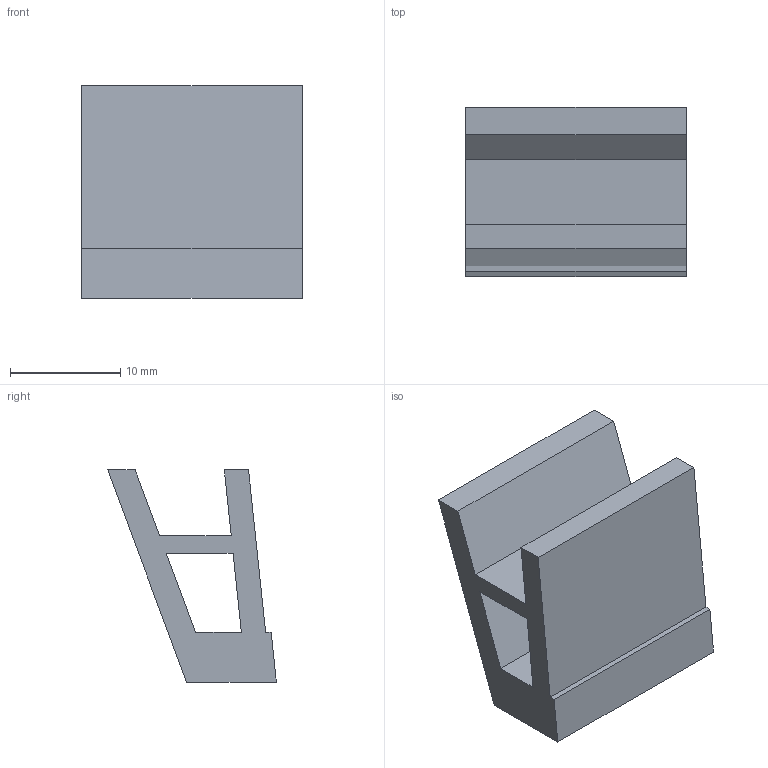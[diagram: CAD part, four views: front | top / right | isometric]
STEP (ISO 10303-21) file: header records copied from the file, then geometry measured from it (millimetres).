
FILE_DESCRIPTION(('Open CASCADE Model'),'2;1');
FILE_NAME('Open CASCADE Shape Model','2026-10-16T00:30:56',('Author'),( 'Open CASCADE'),'Open CASCADE STEP processor 7.9','Open CASCADE 7.9' ,'Unknown');
FILE_SCHEMA(('AUTOMOTIVE_DESIGN { 1 0 10303 214 1 1 1 1 }'));
Length unit declared in the file: millimetre
Products named in the file (1): Open CASCADE STEP translator 7.9 39
Bounding box: 20 x 15.32 x 19.25 mm (x, y, z)
Volume: 2374.7 mm3; surface area: 2181.8 mm2
Topology: 1 solids, 1 shells, 16 faces, 42 edges, 28 vertices
Faces by surface type: plane 16
Entity records: 1046 total; most frequent: CARTESIAN_POINT 171, DIRECTION 160, LINE 126, VECTOR 126, ORIENTED_EDGE 84, PCURVE 84, DEFINITIONAL_REPRESENTATION 84, EDGE_CURVE 42
